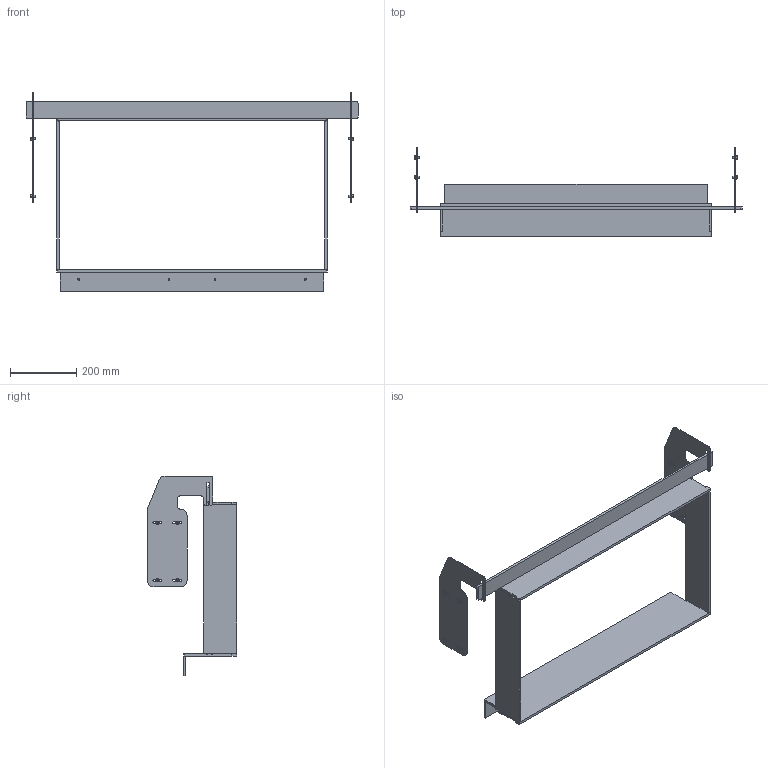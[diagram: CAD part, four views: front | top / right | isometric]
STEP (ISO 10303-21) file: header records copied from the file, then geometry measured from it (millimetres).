
FILE_DESCRIPTION(/* description */ (''),/* implementation_level */ '2;1');
FILE_NAME(/* name */ 'C:\Users\jku\Desktop\Violino\45x80_2015-03077.stp',/* time_stamp */ '2021-10-27T13:52:24+02:00',/* author */ ('JKU'),/* organization */ (''),/* preprocessor_version */ 'ST-DEVELOPER v18.1',/* originating_system */ 'Autodesk Inventor 2022',/* authorisation */ '');
FILE_SCHEMA (('AUTOMOTIVE_DESIGN { 1 0 10303 214 3 1 1 }'));
Length unit declared in the file: millimetre
Products named in the file (9): 2015-03077; 2015-03080; 2015-03078; 2015-03066; 2015-03079; 2015-03081; 2016-04186; ISO 4017 - M6 x 12; ISO 7092 - ST 5 - 140 HV
Assembly tree (24 placements, depth 2):
  2015-03077
    2015-03080
    2015-03078
    2015-03066  x2
    2015-03079
    2015-03081
    2016-04186  x2
    ISO 4017 - M6 x 12  x8
    ISO 7092 - ST 5 - 140 HV  x8
Bounding box: 1006 x 270 x 605.72 mm (x, y, z)
Volume: 3122788.1 mm3; surface area: 1042008.5 mm2
Topology: 24 solids, 24 shells, 380 faces, 900 edges, 584 vertices
Faces by surface type: plane 200, cylinder 124, cone 56
Full cylindrical faces by diameter (mm): 5.2 x4, 5.3 x8, 6 x8, 8.88 x8, 9 x8
Entity records: 5535 total; most frequent: DIRECTION 950, CARTESIAN_POINT 927, ORIENTED_EDGE 852, EDGE_CURVE 426, AXIS2_PLACEMENT_3D 341, VERTEX_POINT 282, LINE 268, VECTOR 268
